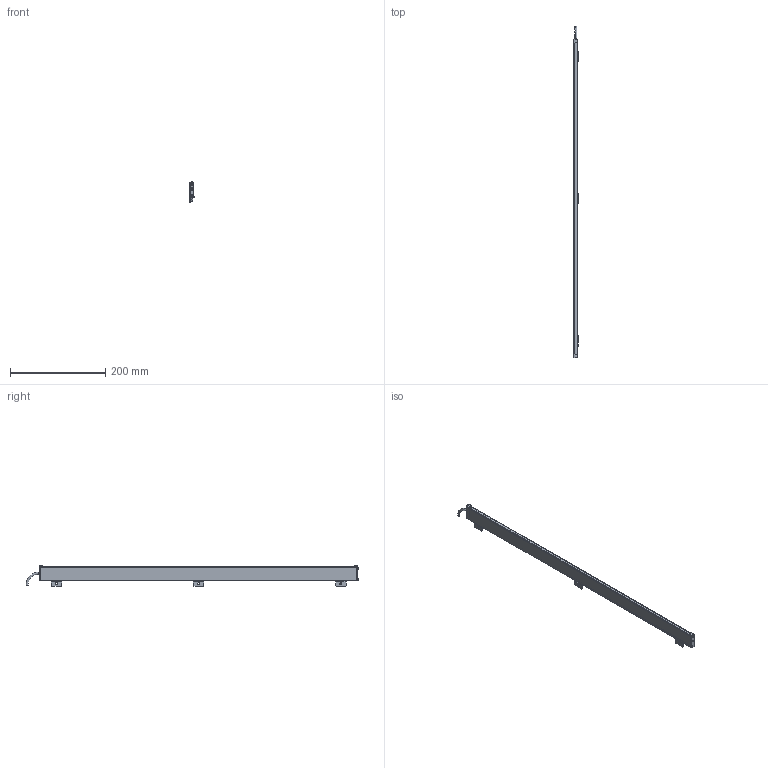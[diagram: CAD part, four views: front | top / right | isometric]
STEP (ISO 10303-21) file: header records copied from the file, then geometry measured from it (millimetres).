
FILE_DESCRIPTION (( 'STEP AP214' ), '1' );
FILE_NAME ('ILG-N-K1-0670mm.STEP', '2017-07-10T13:17:02', ( '' ), ( '' ), 'SwSTEP 2.0', 'SolidWorks 2016', '' );
FILE_SCHEMA (( 'AUTOMOTIVE_DESIGN' ));
Length unit declared in the file: millimetre
Products named in the file (1): ILG-N-K1-0670mm
Bounding box: 10.23 x 698.25 x 42.41 mm (x, y, z)
Volume: 78419.3 mm3; surface area: 116059.5 mm2
Topology: 12 solids, 12 shells, 532 faces, 1348 edges, 836 vertices
Faces by surface type: plane 296, cylinder 162, cone 64, torus 10
Entity records: 21865 total; most frequent: CARTESIAN_POINT 2865, DIRECTION 2794, ORIENTED_EDGE 2680, EDGE_CURVE 1340, AXIS2_PLACEMENT_3D 973, LINE 848, VECTOR 848, VERTEX_POINT 836
